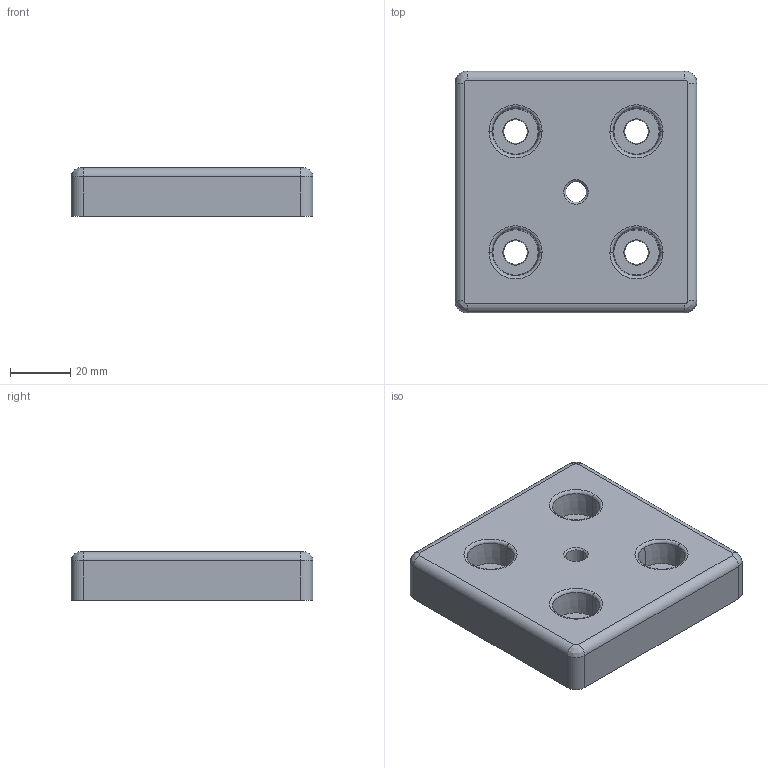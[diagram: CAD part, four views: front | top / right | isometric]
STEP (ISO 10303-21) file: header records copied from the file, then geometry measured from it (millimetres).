
FILE_DESCRIPTION (( 'STEP AP214' ), '1' );
FILE_NAME ('6.04.sptbp8080.STEP', '2015-05-31T08:05:31', ( '' ), ( '' ), 'SwSTEP 2.0', 'SolidWorks 2015', '' );
FILE_SCHEMA (( 'AUTOMOTIVE_DESIGN' ));
Length unit declared in the file: millimetre
Products named in the file (1): 6.04.sptbp8080
Bounding box: 80 x 80 x 16 mm (x, y, z)
Volume: 63527.2 mm3; surface area: 27783.4 mm2
Topology: 1 solids, 1 shells, 236 faces, 568 edges, 325 vertices
Faces by surface type: bspline 102, cylinder 52, plane 42, cone 40
Entity records: 9969 total; most frequent: CARTESIAN_POINT 5197, ORIENTED_EDGE 1094, DIRECTION 860, EDGE_CURVE 547, AXIS2_PLACEMENT_3D 350, VERTEX_POINT 325, EDGE_LOOP 258, ADVANCED_FACE 236
